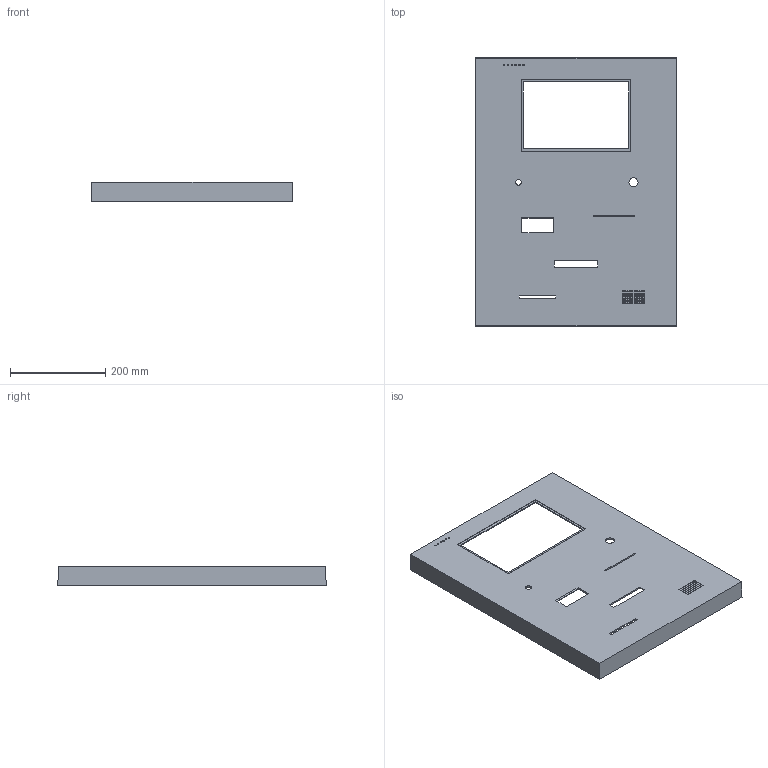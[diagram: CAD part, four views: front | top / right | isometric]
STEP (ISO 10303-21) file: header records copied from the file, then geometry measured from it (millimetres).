
FILE_DESCRIPTION(('Open CASCADE Model'),'2;1');
FILE_NAME('Open CASCADE Shape Model','2026-09-13T22:16:31',('Author'),( 'Open CASCADE'),'Open CASCADE STEP processor 7.9','Open CASCADE 7.9' ,'Unknown');
FILE_SCHEMA(('AUTOMOTIVE_DESIGN { 1 0 10303 214 1 1 1 1 }'));
Length unit declared in the file: millimetre
Products named in the file (1): Open CASCADE STEP translator 7.9 2
Bounding box: 422.1 x 562.8 x 40.2 mm (x, y, z)
Volume: 887340.3 mm3; surface area: 623089.8 mm2
Topology: 1 solids, 1 shells, 327 faces, 915 edges, 610 vertices
Faces by surface type: plane 247, cylinder 80
Full cylindrical faces by diameter (mm): 2.513 x60, 3.015 x6, 5.628 x6, 10.05 x6, 12.06 x1, 19.095 x1
Entity records: 22956 total; most frequent: CARTESIAN_POINT 5743, DIRECTION 2871, ORIENTED_EDGE 1830, PCURVE 1830, DEFINITIONAL_REPRESENTATION 1830, LINE 1625, VECTOR 1625, EDGE_CURVE 915
